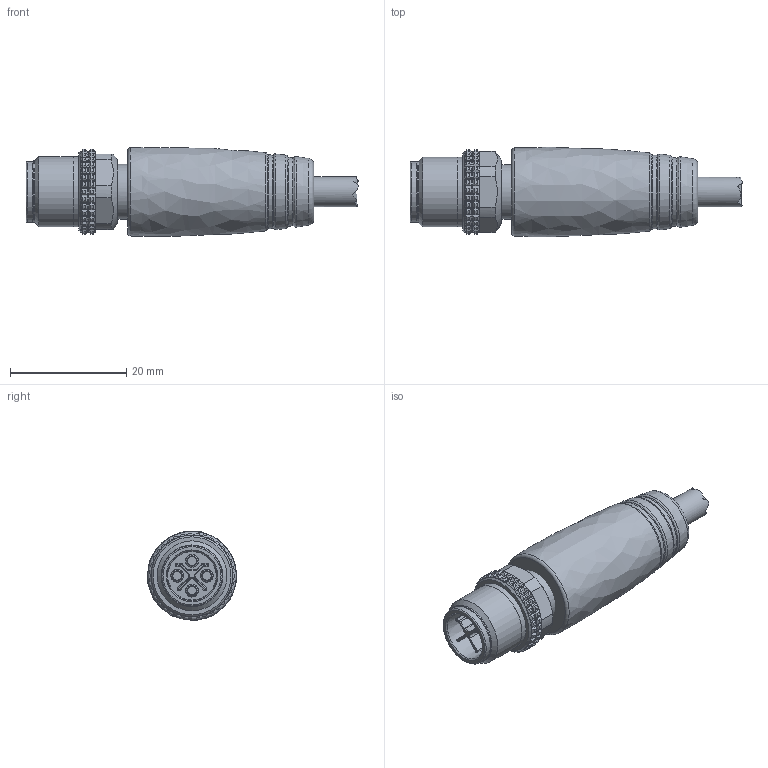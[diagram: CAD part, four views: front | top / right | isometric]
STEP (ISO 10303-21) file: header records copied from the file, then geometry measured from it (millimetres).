
FILE_DESCRIPTION((''),'2;1');
FILE_NAME('C:\Users\enrico\Desktop\Ale\Sito Web Mintec\AUTOMAZIONE_2020\FOTO & STEP chiave S Power M12\singola testa\Ch S Maschio.stp','2020-10-29T09:30:26',('Tecnico2'),(''),'Autodesk Inventor 2012','Autodesk Inventor 2012','');
FILE_SCHEMA(('AUTOMOTIVE_DESIGN { 1 0 10303 214 1 1 1 1 }'));
Length unit declared in the file: millimetre
Products named in the file (5): assieme connettore M12 ch S; inserto Maschio M12_chiave S; 0606715NI_ghiera M12 Maschio NUOVA; maschio chiave S; corpo chiave S
Assembly tree (4 placements, depth 3):
  assieme connettore M12 ch S
    inserto Maschio M12_chiave S
      0606715NI_ghiera M12 Maschio NUOVA
      maschio chiave S
    corpo chiave S
Bounding box: 57.08 x 15.4 x 15.31 mm (x, y, z)
Volume: 6870 mm3; surface area: 4984.5 mm2
Topology: 3 solids, 3 shells, 865 faces, 2101 edges, 1255 vertices
Faces by surface type: plane 305, cylinder 248, cone 175, torus 64, sphere 64, bspline 9
Full cylindrical faces by diameter (mm): 1.51 x4, 2.15 x4, 2.6 x4, 5.1 x1, 9.4 x1, 9.9 x1, 10.4 x3, 10.6 x1, 12 x2, 14 x2
Entity records: 24779 total; most frequent: CARTESIAN_POINT 6210, ORIENTED_EDGE 4012, DIRECTION 3861, EDGE_CURVE 2006, AXIS2_PLACEMENT_3D 1642, VERTEX_POINT 1240, EDGE_LOOP 968, FACE_OUTER_BOUND 865
